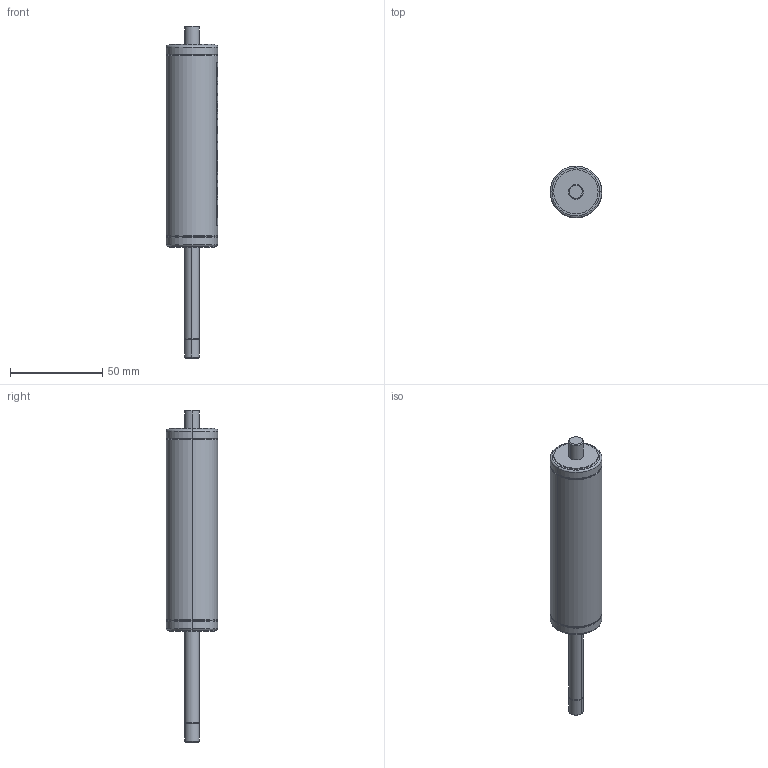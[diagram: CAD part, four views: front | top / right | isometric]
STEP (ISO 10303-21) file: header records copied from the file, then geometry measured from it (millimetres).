
FILE_DESCRIPTION (( 'STEP AP214' ), '1' );
FILE_NAME ('D7050160M8.STEP', '2023-02-07T15:25:10', ( '' ), ( '' ), 'SwSTEP 2.0', 'SolidWorks 2021', '' );
FILE_SCHEMA (( 'AUTOMOTIVE_DESIGN' ));
Length unit declared in the file: millimetre
Products named in the file (3): D7050160M8; 8270595150M8_Cylinder; 8270595150M8_Veer
Assembly tree (2 placements, depth 2):
  D7050160M8
    8270595150M8_Cylinder
    8270595150M8_Veer
Bounding box: 28.1 x 28 x 180 mm (x, y, z)
Volume: 71594.4 mm3; surface area: 13025 mm2
Topology: 2 solids, 2 shells, 262 faces, 693 edges, 452 vertices
Faces by surface type: bspline 171, plane 35, cylinder 30, torus 20, cone 6
Entity records: 19163 total; most frequent: CARTESIAN_POINT 13497, ORIENTED_EDGE 1386, EDGE_CURVE 693, B_SPLINE_CURVE_WITH_KNOTS 538, VERTEX_POINT 452, DIRECTION 435, EDGE_LOOP 279, FACE_OUTER_BOUND 262
